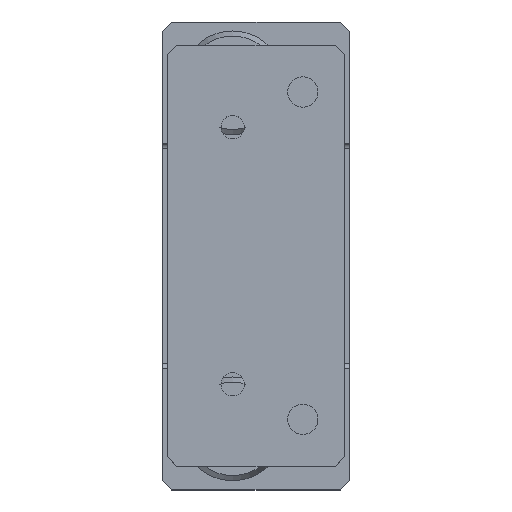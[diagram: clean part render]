
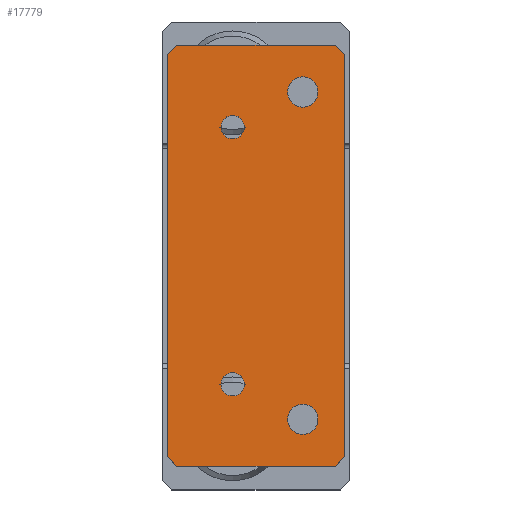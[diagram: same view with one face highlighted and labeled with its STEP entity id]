
A CAD part, top view. The second image highlights one B-rep face of the part: STEP entity #17779.
In plain terms, the highlighted planar face has unit normal (0, 0, 1) as drawn and (0, 0, -1) by its records, which use the part's own axes.
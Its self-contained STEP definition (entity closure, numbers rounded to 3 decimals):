
#4 = ORIENTED_EDGE ( 'NONE', *, *, #14, .T. ) ;
#14 = EDGE_CURVE ( 'NONE', #2967, #2970, #7760, .T. ) ;
#2967 = VERTEX_POINT ( 'NONE', #10428 ) ;
#2969 = EDGE_CURVE ( 'NONE', #2970, #2967, #10525, .T. ) ;
#2970 = VERTEX_POINT ( 'NONE', #10476 ) ;
#3043 = EDGE_CURVE ( 'NONE', #3245, #3243, #10520, .T. ) ;
#3108 = VERTEX_POINT ( 'NONE', #10704 ) ;
#3110 = EDGE_CURVE ( 'NONE', #3111, #3108, #10712, .T. ) ;
#3111 = VERTEX_POINT ( 'NONE', #10847 ) ;
#3241 = EDGE_CURVE ( 'NONE', #3242, #3283, #10866, .T. ) ;
#3242 = VERTEX_POINT ( 'NONE', #10874 ) ;
#3243 = VERTEX_POINT ( 'NONE', #10873 ) ;
#3245 = VERTEX_POINT ( 'NONE', #10872 ) ;
#3283 = VERTEX_POINT ( 'NONE', #11106 ) ;
#7442 = CARTESIAN_POINT ( 'NONE',  ( 10., 35., 0. ) ) ;
#7443 = DIRECTION ( 'NONE',  ( 0., 0., 1. ) ) ;
#7444 = DIRECTION ( 'NONE',  ( 1., 0., 0. ) ) ;
#7759 = AXIS2_PLACEMENT_3D ( 'NONE', #7442, #7443, #7444 ) ;
#7760 = CIRCLE ( 'NONE', #7759, 3.25 ) ;
#8640 = PLANE ( 'NONE',  #9190 ) ;
#8892 = DIRECTION ( 'NONE',  ( 1., 0., 0. ) ) ;
#9189 = CARTESIAN_POINT ( 'NONE',  ( -19., -45., 0. ) ) ;
#9190 = AXIS2_PLACEMENT_3D ( 'NONE', #9189, #9195, #8892 ) ;
#9195 = DIRECTION ( 'NONE',  ( 0., 0., 1. ) ) ;
#9282 = CARTESIAN_POINT ( 'NONE',  ( -19., 45., 0. ) ) ;
#9283 = LINE ( 'NONE', #9282, #9432 ) ;
#9284 = CARTESIAN_POINT ( 'NONE',  ( -19., -43., 0. ) ) ;
#9285 = DIRECTION ( 'NONE',  ( -0.707, 0.707, 0. ) ) ;
#9286 = VECTOR ( 'NONE', #9285, 1000. ) ;
#9287 = CARTESIAN_POINT ( 'NONE',  ( -17., -45., 0. ) ) ;
#9288 = LINE ( 'NONE', #9287, #9286 ) ;
#9330 = CARTESIAN_POINT ( 'NONE',  ( 19., 43., 0. ) ) ;
#9331 = DIRECTION ( 'NONE',  ( -0.707, -0.707, 0. ) ) ;
#9332 = VECTOR ( 'NONE', #9331, 1000. ) ;
#9333 = CARTESIAN_POINT ( 'NONE',  ( 19., -43., 0. ) ) ;
#9334 = LINE ( 'NONE', #9333, #9332 ) ;
#9344 = LINE ( 'NONE', #9462, #9461 ) ;
#9351 = DIRECTION ( 'NONE',  ( 0., 1., 0. ) ) ;
#9352 = VECTOR ( 'NONE', #9351, 1000. ) ;
#9353 = CARTESIAN_POINT ( 'NONE',  ( 19., 45., 0. ) ) ;
#9354 = LINE ( 'NONE', #9353, #9352 ) ;
#9355 = CARTESIAN_POINT ( 'NONE',  ( 19., -43., 0. ) ) ;
#9420 = CARTESIAN_POINT ( 'NONE',  ( -17., -45., 0. ) ) ;
#9421 = DIRECTION ( 'NONE',  ( 1., 0., 0. ) ) ;
#9422 = VECTOR ( 'NONE', #9421, 1000. ) ;
#9423 = CARTESIAN_POINT ( 'NONE',  ( -19., -45., 0. ) ) ;
#9424 = LINE ( 'NONE', #9423, #9422 ) ;
#9425 = CARTESIAN_POINT ( 'NONE',  ( 17., -45., 0. ) ) ;
#9426 = DIRECTION ( 'NONE',  ( 0.707, 0.707, 0. ) ) ;
#9427 = VECTOR ( 'NONE', #9426, 1000. ) ;
#9428 = CARTESIAN_POINT ( 'NONE',  ( -19., 43., 0. ) ) ;
#9429 = LINE ( 'NONE', #9428, #9427 ) ;
#9430 = CARTESIAN_POINT ( 'NONE',  ( -17., 45., 0. ) ) ;
#9431 = DIRECTION ( 'NONE',  ( -1., 0., 0. ) ) ;
#9432 = VECTOR ( 'NONE', #9431, 1000. ) ;
#9460 = DIRECTION ( 'NONE',  ( 0.707, -0.707, 0. ) ) ;
#9461 = VECTOR ( 'NONE', #9460, 1000. ) ;
#9462 = CARTESIAN_POINT ( 'NONE',  ( 17., 45., 0. ) ) ;
#9463 = CARTESIAN_POINT ( 'NONE',  ( -19., 43., 0. ) ) ;
#9464 = DIRECTION ( 'NONE',  ( 0., -1., 0. ) ) ;
#9465 = VECTOR ( 'NONE', #9464, 1000. ) ;
#9466 = CARTESIAN_POINT ( 'NONE',  ( -19., 45., 0. ) ) ;
#9467 = LINE ( 'NONE', #9466, #9465 ) ;
#9468 = CARTESIAN_POINT ( 'NONE',  ( 17., 45., 0. ) ) ;
#9526 = DIRECTION ( 'NONE',  ( 1., 0., 0. ) ) ;
#9527 = DIRECTION ( 'NONE',  ( 0., 0., 1. ) ) ;
#9529 = FACE_BOUND ( 'NONE', #17568, .T. ) ;
#9530 = FACE_BOUND ( 'NONE', #17565, .T. ) ;
#9531 = FACE_OUTER_BOUND ( 'NONE', #17794, .T. ) ;
#9532 = FACE_BOUND ( 'NONE', #17795, .T. ) ;
#9533 = FACE_BOUND ( 'NONE', #17776, .T. ) ;
#9539 = DIRECTION ( 'NONE',  ( 1., 0., 0. ) ) ;
#9540 = DIRECTION ( 'NONE',  ( 0., 0., 1. ) ) ;
#9541 = CARTESIAN_POINT ( 'NONE',  ( -5., -27.5, 0. ) ) ;
#9542 = AXIS2_PLACEMENT_3D ( 'NONE', #9541, #9540, #9539 ) ;
#9547 = CIRCLE ( 'NONE', #9542, 2.5 ) ;
#9550 = DIRECTION ( 'NONE',  ( 1., 0., 0. ) ) ;
#9551 = DIRECTION ( 'NONE',  ( 0., 0., 1. ) ) ;
#9552 = CARTESIAN_POINT ( 'NONE',  ( 10., -35., 0. ) ) ;
#9553 = AXIS2_PLACEMENT_3D ( 'NONE', #9552, #9551, #9550 ) ;
#9554 = CIRCLE ( 'NONE', #9553, 3.25 ) ;
#9563 = CIRCLE ( 'NONE', #9565, 2.5 ) ;
#9564 = CARTESIAN_POINT ( 'NONE',  ( -5., 27.5, 0. ) ) ;
#9565 = AXIS2_PLACEMENT_3D ( 'NONE', #9564, #9527, #9526 ) ;
#10421 = DIRECTION ( 'NONE',  ( 1., 0., 0. ) ) ;
#10422 = DIRECTION ( 'NONE',  ( 0., 0., 1. ) ) ;
#10423 = CARTESIAN_POINT ( 'NONE',  ( 10., 35., 0. ) ) ;
#10424 = AXIS2_PLACEMENT_3D ( 'NONE', #10423, #10422, #10421 ) ;
#10428 = CARTESIAN_POINT ( 'NONE',  ( 13.25, 35., 0. ) ) ;
#10476 = CARTESIAN_POINT ( 'NONE',  ( 6.75, 35., 0. ) ) ;
#10516 = DIRECTION ( 'NONE',  ( 1., 0., 0. ) ) ;
#10517 = DIRECTION ( 'NONE',  ( 0., 0., 1. ) ) ;
#10518 = CARTESIAN_POINT ( 'NONE',  ( -5., -27.5, 0. ) ) ;
#10519 = AXIS2_PLACEMENT_3D ( 'NONE', #10518, #10517, #10516 ) ;
#10520 = CIRCLE ( 'NONE', #10519, 2.5 ) ;
#10525 = CIRCLE ( 'NONE', #10424, 3.25 ) ;
#10704 = CARTESIAN_POINT ( 'NONE',  ( 13.25, -35., 0. ) ) ;
#10711 = AXIS2_PLACEMENT_3D ( 'NONE', #10740, #10849, #10848 ) ;
#10712 = CIRCLE ( 'NONE', #10711, 3.25 ) ;
#10740 = CARTESIAN_POINT ( 'NONE',  ( 10., -35., 0. ) ) ;
#10847 = CARTESIAN_POINT ( 'NONE',  ( 6.75, -35., 0. ) ) ;
#10848 = DIRECTION ( 'NONE',  ( 1., 0., 0. ) ) ;
#10849 = DIRECTION ( 'NONE',  ( 0., 0., 1. ) ) ;
#10865 = CARTESIAN_POINT ( 'NONE',  ( -5., 27.5, 0. ) ) ;
#10866 = CIRCLE ( 'NONE', #10877, 2.5 ) ;
#10872 = CARTESIAN_POINT ( 'NONE',  ( -7.5, -27.5, 0. ) ) ;
#10873 = CARTESIAN_POINT ( 'NONE',  ( -2.5, -27.5, 0. ) ) ;
#10874 = CARTESIAN_POINT ( 'NONE',  ( -7.5, 27.5, 0. ) ) ;
#10875 = DIRECTION ( 'NONE',  ( 1., 0., 0. ) ) ;
#10876 = DIRECTION ( 'NONE',  ( 0., 0., 1. ) ) ;
#10877 = AXIS2_PLACEMENT_3D ( 'NONE', #10865, #10876, #10875 ) ;
#11106 = CARTESIAN_POINT ( 'NONE',  ( -2.5, 27.5, 0. ) ) ;
#17543 = ORIENTED_EDGE ( 'NONE', *, *, #17561, .F. ) ;
#17556 = VERTEX_POINT ( 'NONE', #9355 ) ;
#17561 = EDGE_CURVE ( 'NONE', #17556, #17723, #9354, .T. ) ;
#17562 = ORIENTED_EDGE ( 'NONE', *, *, #17763, .T. ) ;
#17564 = ORIENTED_EDGE ( 'NONE', *, *, #3110, .T. ) ;
#17565 = EDGE_LOOP ( 'NONE', ( #17566, #17567 ) ) ;
#17566 = ORIENTED_EDGE ( 'NONE', *, *, #3043, .T. ) ;
#17567 = ORIENTED_EDGE ( 'NONE', *, *, #17772, .T. ) ;
#17568 = EDGE_LOOP ( 'NONE', ( #17564, #17562 ) ) ;
#17569 = ORIENTED_EDGE ( 'NONE', *, *, #17570, .T. ) ;
#17570 = EDGE_CURVE ( 'NONE', #17625, #17723, #9344, .T. ) ;
#17625 = VERTEX_POINT ( 'NONE', #9468 ) ;
#17628 = EDGE_CURVE ( 'NONE', #17629, #17638, #9467, .T. ) ;
#17629 = VERTEX_POINT ( 'NONE', #9463 ) ;
#17631 = ORIENTED_EDGE ( 'NONE', *, *, #17649, .T. ) ;
#17635 = ORIENTED_EDGE ( 'NONE', *, *, #17637, .T. ) ;
#17637 = EDGE_CURVE ( 'NONE', #17704, #17638, #9288, .T. ) ;
#17638 = VERTEX_POINT ( 'NONE', #9284 ) ;
#17639 = ORIENTED_EDGE ( 'NONE', *, *, #17628, .F. ) ;
#17646 = ORIENTED_EDGE ( 'NONE', *, *, #17647, .F. ) ;
#17647 = EDGE_CURVE ( 'NONE', #17625, #17648, #9283, .T. ) ;
#17648 = VERTEX_POINT ( 'NONE', #9430 ) ;
#17649 = EDGE_CURVE ( 'NONE', #17629, #17648, #9429, .T. ) ;
#17701 = VERTEX_POINT ( 'NONE', #9425 ) ;
#17702 = ORIENTED_EDGE ( 'NONE', *, *, #17703, .F. ) ;
#17703 = EDGE_CURVE ( 'NONE', #17704, #17701, #9424, .T. ) ;
#17704 = VERTEX_POINT ( 'NONE', #9420 ) ;
#17720 = ORIENTED_EDGE ( 'NONE', *, *, #17721, .T. ) ;
#17721 = EDGE_CURVE ( 'NONE', #17556, #17701, #9334, .T. ) ;
#17723 = VERTEX_POINT ( 'NONE', #9330 ) ;
#17736 = EDGE_CURVE ( 'NONE', #3283, #3242, #9563, .T. ) ;
#17763 = EDGE_CURVE ( 'NONE', #3108, #3111, #9554, .T. ) ;
#17772 = EDGE_CURVE ( 'NONE', #3243, #3245, #9547, .T. ) ;
#17776 = EDGE_LOOP ( 'NONE', ( #17777, #4 ) ) ;
#17777 = ORIENTED_EDGE ( 'NONE', *, *, #2969, .T. ) ;
#17779 = ADVANCED_FACE ( 'NONE', ( #9533, #9532, #9531, #9530, #9529 ), #8640, .F. ) ;
#17794 = EDGE_LOOP ( 'NONE', ( #17543, #17720, #17702, #17635, #17639, #17631, #17646, #17569 ) ) ;
#17795 = EDGE_LOOP ( 'NONE', ( #17796, #17797 ) ) ;
#17796 = ORIENTED_EDGE ( 'NONE', *, *, #3241, .T. ) ;
#17797 = ORIENTED_EDGE ( 'NONE', *, *, #17736, .T. ) ;
